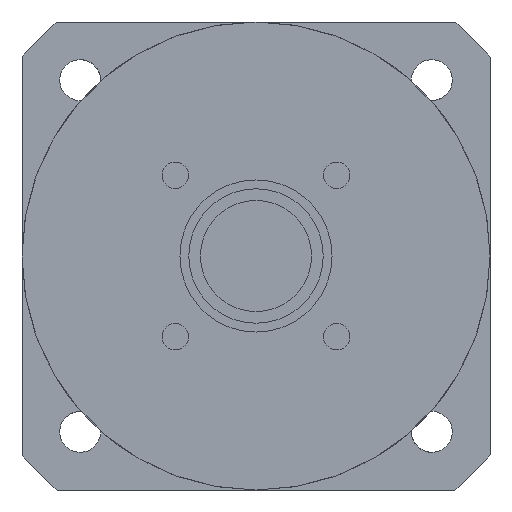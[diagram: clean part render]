
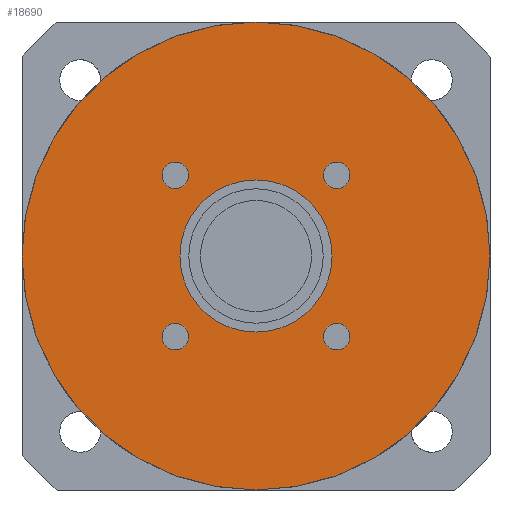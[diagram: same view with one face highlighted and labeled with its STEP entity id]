
A CAD part, left-side view. The second image highlights one B-rep face of the part: STEP entity #18690.
In plain terms, the highlighted planar face has unit normal (-1, 0, 0) as drawn and (0, 0, -1) by its records, which use the part's own axes.
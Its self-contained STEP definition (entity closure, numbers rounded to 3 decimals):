
#17470=CARTESIAN_POINT('',(0.,0.,-42.)
);
#17480=DIRECTION('',(0.,0.,-1.));
#17490=DIRECTION('',(0.,-1.,0.));
#17500=AXIS2_PLACEMENT_3D('',#17470,#17480,#17490);
#17510=CIRCLE('',#17500,40.);
#17520=CARTESIAN_POINT('',(0.,-40.,-42.));
#17530=VERTEX_POINT('',#17520);
#17540=CARTESIAN_POINT('',(-40.,0.,-42.));
#17550=VERTEX_POINT('',#17540);
#17560=EDGE_CURVE('',#17530,#17550,#17510,.T.);
#17700=CARTESIAN_POINT('',(40.,0.,-42.));
#17710=VERTEX_POINT('',#17700);
#17740=EDGE_CURVE('',#17710,#17530,#17510,.T.);
#17790=CARTESIAN_POINT('',(0.,0.,-42.)
);
#17800=DIRECTION('',(0.,0.,-1.));
#17810=DIRECTION('',(1.,0.,0.));
#17820=AXIS2_PLACEMENT_3D('',#17790,#17800,#17810);
#17830=PLANE('',#17820);
#17840=CARTESIAN_POINT('',(13.789,13.789,-42.));
#17850=DIRECTION('',(0.,0.,-1.));
#17860=DIRECTION('',(0.,1.,0.));
#17870=AXIS2_PLACEMENT_3D('',#17840,#17850,#17860);
#17880=CIRCLE('',#17870,2.25);
#17890=CARTESIAN_POINT('',(13.789,16.039,-42.));
#17900=VERTEX_POINT('',#17890);
#17910=CARTESIAN_POINT('',(13.789,11.539,-42.));
#17920=VERTEX_POINT('',#17910);
#17930=EDGE_CURVE('',#17900,#17920,#17880,.T.);
#17940=ORIENTED_EDGE('',*,*,#17930,.F.);
#17950=EDGE_CURVE('',#17920,#17900,#17880,.T.);
#17960=ORIENTED_EDGE('',*,*,#17950,.F.);
#17970=EDGE_LOOP('',(#17960,#17940));
#17980=FACE_BOUND('',#17970,.T.);
#17990=CARTESIAN_POINT('',(-13.789,13.789,-42.));
#18000=DIRECTION('',(0.,0.,-1.));
#18010=DIRECTION('',(-1.,0.,0.));
#18020=AXIS2_PLACEMENT_3D('',#17990,#18000,#18010);
#18030=CIRCLE('',#18020,2.25);
#18040=CARTESIAN_POINT('',(-16.039,13.789,-42.));
#18050=VERTEX_POINT('',#18040);
#18060=CARTESIAN_POINT('',(-11.539,13.789,-42.));
#18070=VERTEX_POINT('',#18060);
#18080=EDGE_CURVE('',#18050,#18070,#18030,.T.);
#18090=ORIENTED_EDGE('',*,*,#18080,.F.);
#18100=EDGE_CURVE('',#18070,#18050,#18030,.T.);
#18110=ORIENTED_EDGE('',*,*,#18100,.F.);
#18120=EDGE_LOOP('',(#18110,#18090));
#18130=FACE_BOUND('',#18120,.T.);
#18140=CARTESIAN_POINT('',(-13.789,-13.789,-42.));
#18150=DIRECTION('',(0.,0.,-1.));
#18160=DIRECTION('',(0.,-1.,0.));
#18170=AXIS2_PLACEMENT_3D('',#18140,#18150,#18160);
#18180=CIRCLE('',#18170,2.25);
#18190=CARTESIAN_POINT('',(-13.789,-16.039,-42.));
#18200=VERTEX_POINT('',#18190);
#18210=CARTESIAN_POINT('',(-13.789,-11.539,-42.));
#18220=VERTEX_POINT('',#18210);
#18230=EDGE_CURVE('',#18200,#18220,#18180,.T.);
#18240=ORIENTED_EDGE('',*,*,#18230,.F.);
#18250=EDGE_CURVE('',#18220,#18200,#18180,.T.);
#18260=ORIENTED_EDGE('',*,*,#18250,.F.);
#18270=EDGE_LOOP('',(#18260,#18240));
#18280=FACE_BOUND('',#18270,.T.);
#18290=CARTESIAN_POINT('',(0.,0.,
-42.));
#18300=DIRECTION('',(0.,0.,1.));
#18310=DIRECTION('',(0.,1.,0.));
#18320=AXIS2_PLACEMENT_3D('',#18290,#18300,#18310);
#18330=CIRCLE('',#18320,13.);
#18340=CARTESIAN_POINT('',(-13.,0.,-42.));
#18350=VERTEX_POINT('',#18340);
#18360=CARTESIAN_POINT('',(13.,0.,-42.));
#18370=VERTEX_POINT('',#18360);
#18380=EDGE_CURVE('',#18350,#18370,#18330,.T.);
#18390=ORIENTED_EDGE('',*,*,#18380,.T.);
#18400=CARTESIAN_POINT('',(0.,13.,-42.));
#18410=VERTEX_POINT('',#18400);
#18420=EDGE_CURVE('',#18410,#18350,#18330,.T.);
#18430=ORIENTED_EDGE('',*,*,#18420,.T.);
#18440=EDGE_CURVE('',#18370,#18410,#18330,.T.);
#18450=ORIENTED_EDGE('',*,*,#18440,.T.);
#18460=EDGE_LOOP('',(#18450,#18430,#18390));
#18470=FACE_BOUND('',#18460,.T.);
#18480=CARTESIAN_POINT('',(13.789,-13.789,-42.));
#18490=DIRECTION('',(0.,0.,-1.));
#18500=DIRECTION('',(1.,0.,0.));
#18510=AXIS2_PLACEMENT_3D('',#18480,#18490,#18500);
#18520=CIRCLE('',#18510,2.25);
#18530=CARTESIAN_POINT('',(16.039,-13.789,-42.));
#18540=VERTEX_POINT('',#18530);
#18550=CARTESIAN_POINT('',(11.539,-13.789,-42.));
#18560=VERTEX_POINT('',#18550);
#18570=EDGE_CURVE('',#18540,#18560,#18520,.T.);
#18580=ORIENTED_EDGE('',*,*,#18570,.F.);
#18590=EDGE_CURVE('',#18560,#18540,#18520,.T.);
#18600=ORIENTED_EDGE('',*,*,#18590,.F.);
#18610=EDGE_LOOP('',(#18600,#18580));
#18620=FACE_BOUND('',#18610,.T.);
#18630=EDGE_CURVE('',#17550,#17710,#17510,.T.);
#18640=ORIENTED_EDGE('',*,*,#18630,.T.);
#18650=ORIENTED_EDGE('',*,*,#17560,.T.);
#18660=ORIENTED_EDGE('',*,*,#17740,.T.);
#18670=EDGE_LOOP('',(#18660,#18650,#18640));
#18680=FACE_OUTER_BOUND('',#18670,.T.);
#18690=ADVANCED_FACE('',(#17980,#18130,#18280,#18470,#18620,#18680),
#17830,.T.);
